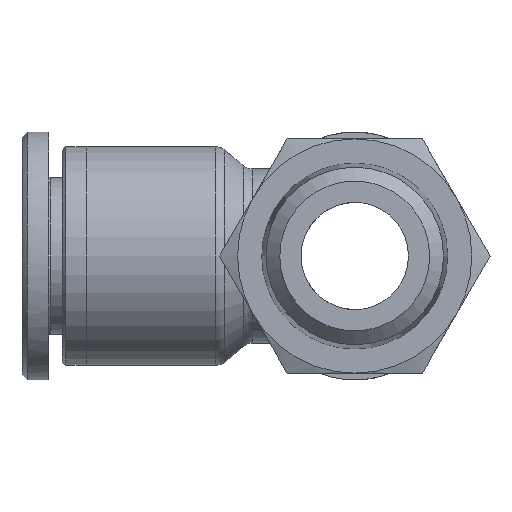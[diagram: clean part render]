
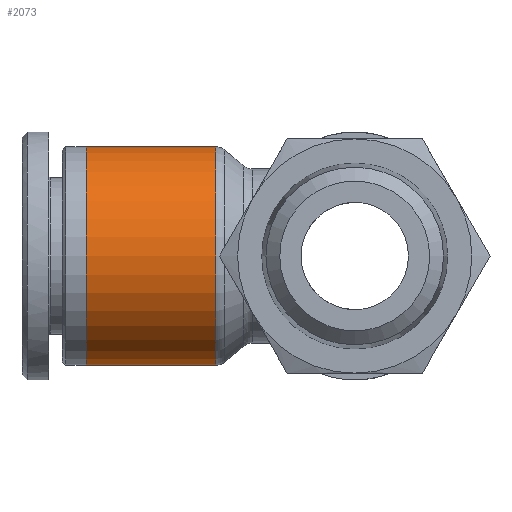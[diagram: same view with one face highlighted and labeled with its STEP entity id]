
A CAD part, front view. The second image highlights one B-rep face of the part: STEP entity #2073.
In plain terms, the highlighted cylindrical face has radius 8.15 mm (diameter 16.3 mm), a full revolution.
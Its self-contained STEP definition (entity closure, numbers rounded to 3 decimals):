
#2010=CARTESIAN_POINT('',(9.641,8.15,0.0));
#2011=VERTEX_POINT('',#2010);
#2012=CARTESIAN_POINT('',(9.641,0.,0.0));
#2013=DIRECTION('',(1.0,0.0,0.0));
#2014=DIRECTION('',(0.0,-1.0,0.0));
#2015=AXIS2_PLACEMENT_3D('',#2012,#2013,#2014);
#2016=CIRCLE('',#2015,8.15);
#2017=EDGE_CURVE('',#2011,#2011,#2016,.T.);
#2054=CARTESIAN_POINT('',(5.,0.,0.0));
#2055=DIRECTION('',(1.0,0.,0.0));
#2056=DIRECTION('',(0.0,1.0,0.0));
#2057=AXIS2_PLACEMENT_3D('',#2054,#2055,#2056);
#2058=CYLINDRICAL_SURFACE('',#2057,8.15);
#2059=CARTESIAN_POINT('',(0.0,8.15,0.0));
#2060=VERTEX_POINT('',#2059);
#2061=CARTESIAN_POINT('',(0.,0.,0.0));
#2062=DIRECTION('',(1.0,0.0,0.0));
#2063=DIRECTION('',(0.0,1.0,0.0));
#2064=AXIS2_PLACEMENT_3D('',#2061,#2062,#2063);
#2065=CIRCLE('',#2064,8.15);
#2066=EDGE_CURVE('',#2060,#2060,#2065,.T.);
#2067=ORIENTED_EDGE('',*,*,#2066,.T.);
#2068=EDGE_LOOP('',(#2067));
#2069=FACE_OUTER_BOUND('',#2068,.T.);
#2070=ORIENTED_EDGE('',*,*,#2017,.F.);
#2071=EDGE_LOOP('',(#2070));
#2072=FACE_BOUND('',#2071,.T.);
#2073=ADVANCED_FACE('',(#2069,#2072),#2058,.T.);
